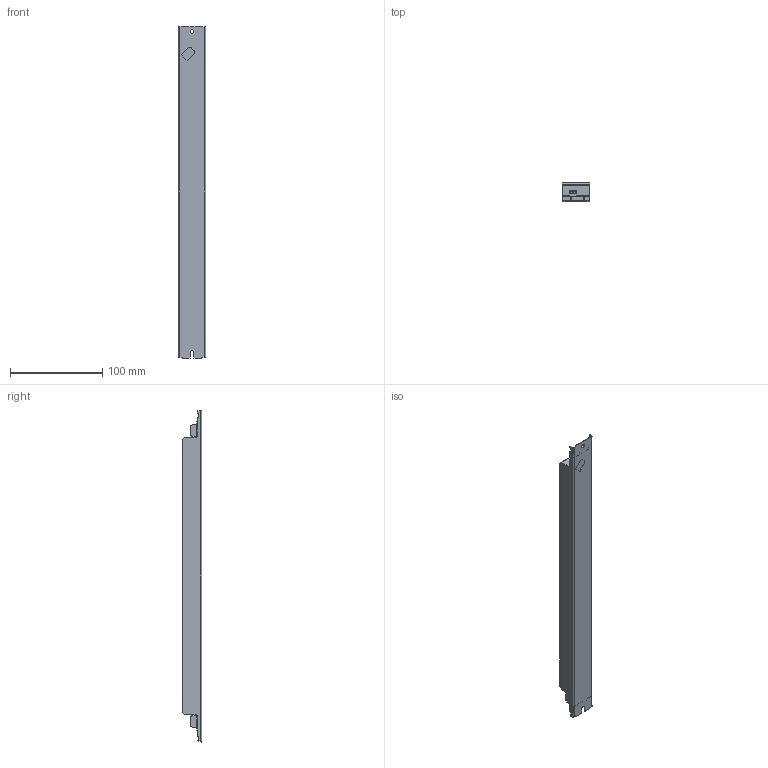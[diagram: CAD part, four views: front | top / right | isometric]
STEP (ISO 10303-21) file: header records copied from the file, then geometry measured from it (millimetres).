
FILE_DESCRIPTION((''),'2;1');
FILE_NAME('15006785Z','2011-11-29T',('juergen.hrach'),(''),'PRO/ENGINEER BY PARAMETRIC TECHNOLOGY CORPORATION, 2010480','PRO/ENGINEER BY PARAMETRIC TECHNOLOGY CORPORATION, 2010480','');
FILE_SCHEMA(('AUTOMOTIVE_DESIGN { 1 2 10303 214 0 1 1 1 }'));
Length unit declared in the file: millimetre
Products named in the file (1): 15006785Z
Bounding box: 30 x 21 x 360 mm (x, y, z)
Volume: 196591.9 mm3; surface area: 36245 mm2
Topology: 1 solids, 1 shells, 241 faces, 675 edges, 448 vertices
Faces by surface type: plane 138, cylinder 83, extrusion 20
Entity records: 10130 total; most frequent: CARTESIAN_POINT 1755, ORIENTED_EDGE 1350, DIRECTION 1199, PRESENTATION_STYLE_ASSIGNMENT 678, STYLED_ITEM 676, CURVE_STYLE 675, EDGE_CURVE 675, VECTOR 469
